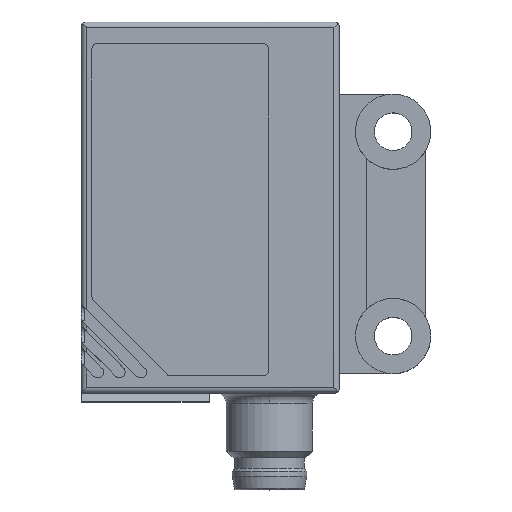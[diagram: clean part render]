
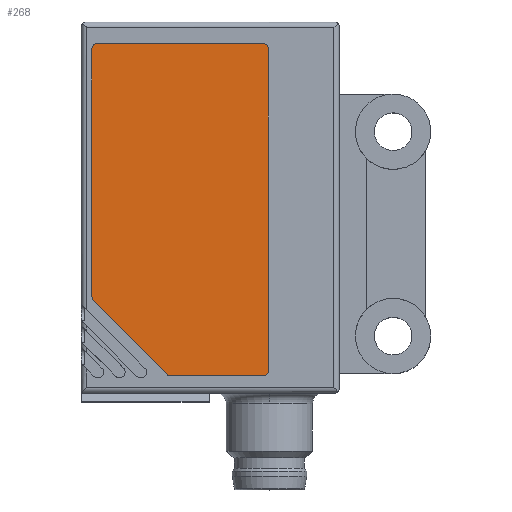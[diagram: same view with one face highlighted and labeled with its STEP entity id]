
A CAD part, top view. The second image highlights one B-rep face of the part: STEP entity #268.
In plain terms, the highlighted planar face has unit normal (0, 0, 1).
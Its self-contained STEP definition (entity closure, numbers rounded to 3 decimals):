
#268 = ADVANCED_FACE( '', ( #617 ), #618, .T. );
#617 = FACE_OUTER_BOUND( '', #1024, .T. );
#618 = PLANE( '', #1025 );
#1024 = EDGE_LOOP( '', ( #2326, #2327, #2328, #2329, #2330, #2331, #2332, #2333, #2334, #2335 ) );
#1025 = AXIS2_PLACEMENT_3D( '', #2336, #2337, #2338 );
#2326 = ORIENTED_EDGE( '', *, *, #3177, .T. );
#2327 = ORIENTED_EDGE( '', *, *, #3174, .T. );
#2328 = ORIENTED_EDGE( '', *, *, #3171, .T. );
#2329 = ORIENTED_EDGE( '', *, *, #3168, .T. );
#2330 = ORIENTED_EDGE( '', *, *, #3165, .T. );
#2331 = ORIENTED_EDGE( '', *, *, #3162, .T. );
#2332 = ORIENTED_EDGE( '', *, *, #3181, .T. );
#2333 = ORIENTED_EDGE( '', *, *, #3184, .T. );
#2334 = ORIENTED_EDGE( '', *, *, #3187, .T. );
#2335 = ORIENTED_EDGE( '', *, *, #3189, .T. );
#2336 = CARTESIAN_POINT( '', ( 0., 0., 5.35 ) );
#2337 = DIRECTION( '', ( 0., 0., 1. ) );
#2338 = DIRECTION( '', ( 1., 0., 0. ) );
#3162 = EDGE_CURVE( '', #3965, #3963, #3966, .T. );
#3165 = EDGE_CURVE( '', #3970, #3965, #3971, .T. );
#3168 = EDGE_CURVE( '', #3975, #3970, #3976, .T. );
#3171 = EDGE_CURVE( '', #3980, #3975, #3981, .T. );
#3174 = EDGE_CURVE( '', #3985, #3980, #3986, .T. );
#3177 = EDGE_CURVE( '', #3990, #3985, #3991, .T. );
#3181 = EDGE_CURVE( '', #3963, #3995, #3997, .T. );
#3184 = EDGE_CURVE( '', #3995, #4000, #4002, .T. );
#3187 = EDGE_CURVE( '', #4000, #4005, #4007, .T. );
#3189 = EDGE_CURVE( '', #4005, #3990, #4009, .T. );
#3963 = VERTEX_POINT( '', #5118 );
#3965 = VERTEX_POINT( '', #5121 );
#3966 = LINE( '', #5122, #5123 );
#3970 = VERTEX_POINT( '', #5128 );
#3971 = CIRCLE( '', #5129, 0.5 );
#3975 = VERTEX_POINT( '', #5135 );
#3976 = LINE( '', #5136, #5137 );
#3980 = VERTEX_POINT( '', #5142 );
#3981 = CIRCLE( '', #5143, 0.3 );
#3985 = VERTEX_POINT( '', #5149 );
#3986 = LINE( '', #5150, #5151 );
#3990 = VERTEX_POINT( '', #5156 );
#3991 = CIRCLE( '', #5157, 0.3 );
#3995 = VERTEX_POINT( '', #5162 );
#3997 = CIRCLE( '', #5165, 0.5 );
#4000 = VERTEX_POINT( '', #5169 );
#4002 = LINE( '', #5172, #5173 );
#4005 = VERTEX_POINT( '', #5176 );
#4007 = CIRCLE( '', #5179, 0.5 );
#4009 = LINE( '', #5182, #5183 );
#5118 = CARTESIAN_POINT( '', ( -0.1, 41., 5.35 ) );
#5121 = CARTESIAN_POINT( '', ( -0.1, 11.1, 5.35 ) );
#5122 = CARTESIAN_POINT( '', ( -0.1, 11.1, 5.35 ) );
#5123 = VECTOR( '', #6007, 1. );
#5128 = CARTESIAN_POINT( '', ( -0.6, 10.6, 5.35 ) );
#5129 = AXIS2_PLACEMENT_3D( '', #6012, #6013, #6014 );
#5135 = CARTESIAN_POINT( '', ( -9.274, 10.6, 5.35 ) );
#5136 = CARTESIAN_POINT( '', ( -9.274, 10.6, 5.35 ) );
#5137 = VECTOR( '', #6017, 1. );
#5142 = CARTESIAN_POINT( '', ( -9.488, 10.69, 5.35 ) );
#5143 = AXIS2_PLACEMENT_3D( '', #6022, #6023, #6024 );
#5149 = CARTESIAN_POINT( '', ( -16.414, 17.732, 5.35 ) );
#5150 = CARTESIAN_POINT( '', ( -16.414, 17.732, 5.35 ) );
#5151 = VECTOR( '', #6027, 1. );
#5156 = CARTESIAN_POINT( '', ( -16.5, 17.943, 5.35 ) );
#5157 = AXIS2_PLACEMENT_3D( '', #6032, #6033, #6034 );
#5162 = CARTESIAN_POINT( '', ( -0.6, 41.5, 5.35 ) );
#5165 = AXIS2_PLACEMENT_3D( '', #6040, #6041, #6042 );
#5169 = CARTESIAN_POINT( '', ( -16., 41.5, 5.35 ) );
#5172 = CARTESIAN_POINT( '', ( -0.6, 41.5, 5.35 ) );
#5173 = VECTOR( '', #6045, 1. );
#5176 = CARTESIAN_POINT( '', ( -16.5, 41., 5.35 ) );
#5179 = AXIS2_PLACEMENT_3D( '', #6050, #6051, #6052 );
#5182 = CARTESIAN_POINT( '', ( -16.5, 41., 5.35 ) );
#5183 = VECTOR( '', #6054, 1. );
#6007 = DIRECTION( '', ( 0., 1., 0. ) );
#6012 = CARTESIAN_POINT( '', ( -0.6, 11.1, 5.35 ) );
#6013 = DIRECTION( '', ( 0., 0., 1. ) );
#6014 = DIRECTION( '', ( 0., -1., 0. ) );
#6017 = DIRECTION( '', ( 1., 0., 0. ) );
#6022 = CARTESIAN_POINT( '', ( -9.274, 10.9, 5.35 ) );
#6023 = DIRECTION( '', ( 0., 0., 1. ) );
#6024 = DIRECTION( '', ( -0.713, -0.701, 0. ) );
#6027 = DIRECTION( '', ( 0.701, -0.713, 0. ) );
#6032 = CARTESIAN_POINT( '', ( -16.2, 17.943, 5.35 ) );
#6033 = DIRECTION( '', ( 0., 0., 1. ) );
#6034 = DIRECTION( '', ( -1., 0., 0. ) );
#6040 = CARTESIAN_POINT( '', ( -0.6, 41., 5.35 ) );
#6041 = DIRECTION( '', ( 0., 0., 1. ) );
#6042 = DIRECTION( '', ( 1., 0., 0. ) );
#6045 = DIRECTION( '', ( -1., 0., 0. ) );
#6050 = CARTESIAN_POINT( '', ( -16., 41., 5.35 ) );
#6051 = DIRECTION( '', ( 0., 0., 1. ) );
#6052 = DIRECTION( '', ( 0., 1., 0. ) );
#6054 = DIRECTION( '', ( 0., -1., 0. ) );
